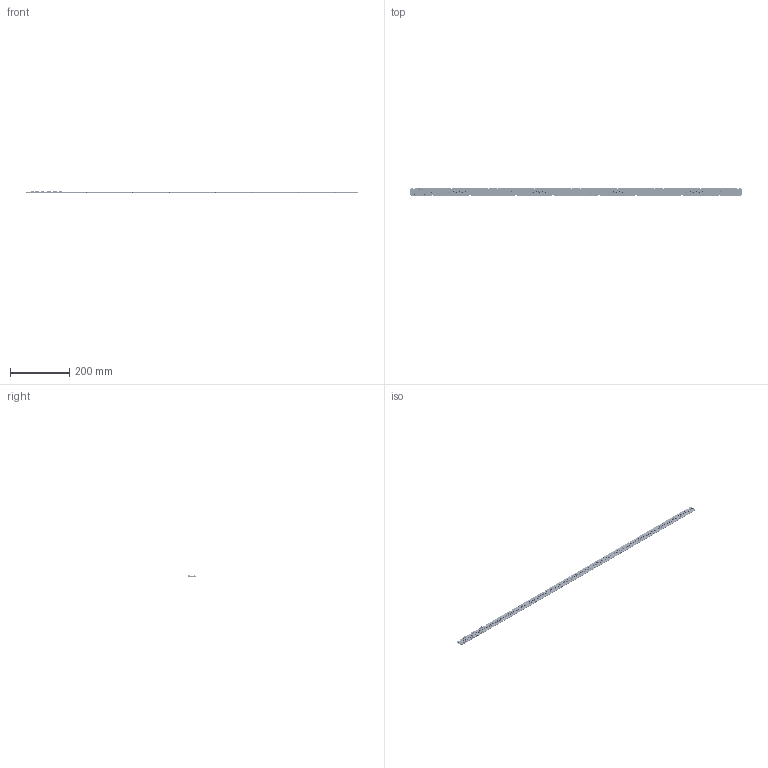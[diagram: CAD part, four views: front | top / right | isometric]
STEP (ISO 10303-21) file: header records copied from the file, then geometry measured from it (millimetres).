
FILE_DESCRIPTION (( 'STEP AP203' ), '1' );
FILE_NAME ('E112DT-112Z-440010.STEP', '2021-06-18T16:59:58', ( '' ), ( '' ), 'SwSTEP 2.0', 'SolidWorks 2015', '' );
FILE_SCHEMA (( 'CONFIG_CONTROL_DESIGN' ));
Length unit declared in the file: inch
Products named in the file (5): LED; RGB_LED; E112DT112_06182021_09-54-52; WAGO-2060-1; E112DT-112Z-440010
Assembly tree (231 placements, depth 2):
  E112DT-112Z-440010
    E112DT112_06182021_09-54-52
    LED  x112
    RGB_LED  x112
    WAGO-2060-1  x6
Bounding box: 1118.4 x 25.4 x 6.34 mm (x, y, z)
Volume: 53090.4 mm3; surface area: 80570.6 mm2
Topology: 231 solids, 231 shells, 17404 faces, 48184 edges, 31820 vertices
Faces by surface type: plane 12744, cylinder 4430, cone 224, bspline 6
Entity records: 27198 total; most frequent: CARTESIAN_POINT 4097, ORIENTED_EDGE 3436, DIRECTION 3375, EDGE_CURVE 1718, LINE 1531, VECTOR 1531, VERTEX_POINT 1142, AXIS2_PLACEMENT_3D 922
